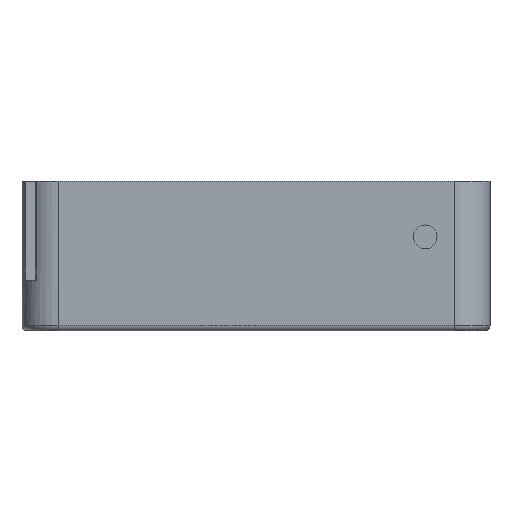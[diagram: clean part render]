
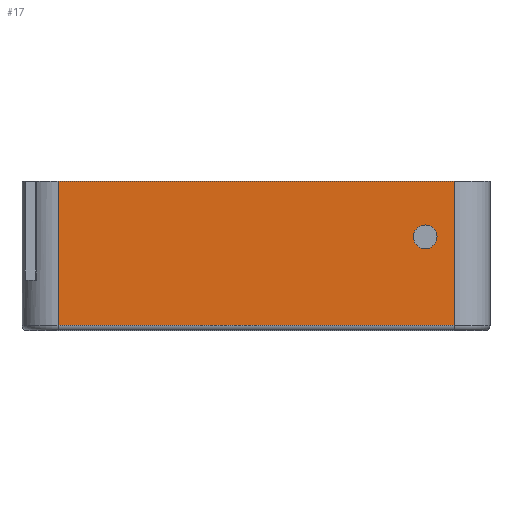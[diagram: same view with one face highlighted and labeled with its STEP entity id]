
A CAD part, top view. The second image highlights one B-rep face of the part: STEP entity #17.
In plain terms, the highlighted planar face has unit normal (0, 0, 1).
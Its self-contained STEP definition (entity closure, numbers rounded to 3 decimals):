
#17 = ADVANCED_FACE('',(#18,#137),#32,.F.);
#18 = FACE_BOUND('',#19,.F.);
#19 = EDGE_LOOP('',(#20,#55,#83,#111));
#20 = ORIENTED_EDGE('',*,*,#21,.T.);
#21 = EDGE_CURVE('',#22,#24,#26,.T.);
#22 = VERTEX_POINT('',#23);
#23 = CARTESIAN_POINT('',(-55.,-14.6,83.));
#24 = VERTEX_POINT('',#25);
#25 = CARTESIAN_POINT('',(-55.,25.5,83.));
#26 = SURFACE_CURVE('',#27,(#31,#43),.PCURVE_S1.);
#27 = LINE('',#28,#29);
#28 = CARTESIAN_POINT('',(-55.,-16.,83.));
#29 = VECTOR('',#30,1.);
#30 = DIRECTION('',(0.,1.,0.));
#31 = PCURVE('',#32,#37);
#32 = PLANE('',#33);
#33 = AXIS2_PLACEMENT_3D('',#34,#35,#36);
#34 = CARTESIAN_POINT('',(-65.,-16.,83.));
#35 = DIRECTION('',(0.,0.,-1.));
#36 = DIRECTION('',(1.,0.,0.));
#37 = DEFINITIONAL_REPRESENTATION('',(#38),#42);
#38 = LINE('',#39,#40);
#39 = CARTESIAN_POINT('',(10.,0.));
#40 = VECTOR('',#41,1.);
#41 = DIRECTION('',(0.,-1.));
#42 = ( GEOMETRIC_REPRESENTATION_CONTEXT(2) 
PARAMETRIC_REPRESENTATION_CONTEXT() REPRESENTATION_CONTEXT('2D SPACE',''
  ) );
#43 = PCURVE('',#44,#49);
#44 = CYLINDRICAL_SURFACE('',#45,10.);
#45 = AXIS2_PLACEMENT_3D('',#46,#47,#48);
#46 = CARTESIAN_POINT('',(-55.,-16.,73.));
#47 = DIRECTION('',(0.,1.,0.));
#48 = DIRECTION('',(0.,-0.,1.));
#49 = DEFINITIONAL_REPRESENTATION('',(#50),#54);
#50 = LINE('',#51,#52);
#51 = CARTESIAN_POINT('',(-0.,0.));
#52 = VECTOR('',#53,1.);
#53 = DIRECTION('',(-0.,1.));
#54 = ( GEOMETRIC_REPRESENTATION_CONTEXT(2) 
PARAMETRIC_REPRESENTATION_CONTEXT() REPRESENTATION_CONTEXT('2D SPACE',''
  ) );
#55 = ORIENTED_EDGE('',*,*,#56,.T.);
#56 = EDGE_CURVE('',#24,#57,#59,.T.);
#57 = VERTEX_POINT('',#58);
#58 = CARTESIAN_POINT('',(55.,25.5,83.));
#59 = SURFACE_CURVE('',#60,(#64,#71),.PCURVE_S1.);
#60 = LINE('',#61,#62);
#61 = CARTESIAN_POINT('',(-65.,25.5,83.));
#62 = VECTOR('',#63,1.);
#63 = DIRECTION('',(1.,0.,0.));
#64 = PCURVE('',#32,#65);
#65 = DEFINITIONAL_REPRESENTATION('',(#66),#70);
#66 = LINE('',#67,#68);
#67 = CARTESIAN_POINT('',(0.,-41.5));
#68 = VECTOR('',#69,1.);
#69 = DIRECTION('',(1.,0.));
#70 = ( GEOMETRIC_REPRESENTATION_CONTEXT(2) 
PARAMETRIC_REPRESENTATION_CONTEXT() REPRESENTATION_CONTEXT('2D SPACE',''
  ) );
#71 = PCURVE('',#72,#77);
#72 = PLANE('',#73);
#73 = AXIS2_PLACEMENT_3D('',#74,#75,#76);
#74 = CARTESIAN_POINT('',(0.,25.5,44.));
#75 = DIRECTION('',(0.,1.,0.));
#76 = DIRECTION('',(0.,-0.,1.));
#77 = DEFINITIONAL_REPRESENTATION('',(#78),#82);
#78 = LINE('',#79,#80);
#79 = CARTESIAN_POINT('',(39.,-65.));
#80 = VECTOR('',#81,1.);
#81 = DIRECTION('',(0.,1.));
#82 = ( GEOMETRIC_REPRESENTATION_CONTEXT(2) 
PARAMETRIC_REPRESENTATION_CONTEXT() REPRESENTATION_CONTEXT('2D SPACE',''
  ) );
#83 = ORIENTED_EDGE('',*,*,#84,.F.);
#84 = EDGE_CURVE('',#85,#57,#87,.T.);
#85 = VERTEX_POINT('',#86);
#86 = CARTESIAN_POINT('',(55.,-14.6,83.));
#87 = SURFACE_CURVE('',#88,(#92,#99),.PCURVE_S1.);
#88 = LINE('',#89,#90);
#89 = CARTESIAN_POINT('',(55.,-16.,83.));
#90 = VECTOR('',#91,1.);
#91 = DIRECTION('',(0.,1.,0.));
#92 = PCURVE('',#32,#93);
#93 = DEFINITIONAL_REPRESENTATION('',(#94),#98);
#94 = LINE('',#95,#96);
#95 = CARTESIAN_POINT('',(120.,0.));
#96 = VECTOR('',#97,1.);
#97 = DIRECTION('',(0.,-1.));
#98 = ( GEOMETRIC_REPRESENTATION_CONTEXT(2) 
PARAMETRIC_REPRESENTATION_CONTEXT() REPRESENTATION_CONTEXT('2D SPACE',''
  ) );
#99 = PCURVE('',#100,#105);
#100 = CYLINDRICAL_SURFACE('',#101,10.);
#101 = AXIS2_PLACEMENT_3D('',#102,#103,#104);
#102 = CARTESIAN_POINT('',(55.,-16.,73.));
#103 = DIRECTION('',(0.,1.,0.));
#104 = DIRECTION('',(0.,-0.,1.));
#105 = DEFINITIONAL_REPRESENTATION('',(#106),#110);
#106 = LINE('',#107,#108);
#107 = CARTESIAN_POINT('',(0.,0.));
#108 = VECTOR('',#109,1.);
#109 = DIRECTION('',(0.,1.));
#110 = ( GEOMETRIC_REPRESENTATION_CONTEXT(2) 
PARAMETRIC_REPRESENTATION_CONTEXT() REPRESENTATION_CONTEXT('2D SPACE',''
  ) );
#111 = ORIENTED_EDGE('',*,*,#112,.F.);
#112 = EDGE_CURVE('',#22,#85,#113,.T.);
#113 = SURFACE_CURVE('',#114,(#118,#125),.PCURVE_S1.);
#114 = LINE('',#115,#116);
#115 = CARTESIAN_POINT('',(-55.,-14.6,83.));
#116 = VECTOR('',#117,1.);
#117 = DIRECTION('',(1.,0.,0.));
#118 = PCURVE('',#32,#119);
#119 = DEFINITIONAL_REPRESENTATION('',(#120),#124);
#120 = LINE('',#121,#122);
#121 = CARTESIAN_POINT('',(10.,-1.4));
#122 = VECTOR('',#123,1.);
#123 = DIRECTION('',(1.,0.));
#124 = ( GEOMETRIC_REPRESENTATION_CONTEXT(2) 
PARAMETRIC_REPRESENTATION_CONTEXT() REPRESENTATION_CONTEXT('2D SPACE',''
  ) );
#125 = PCURVE('',#126,#131);
#126 = CYLINDRICAL_SURFACE('',#127,1.4);
#127 = AXIS2_PLACEMENT_3D('',#128,#129,#130);
#128 = CARTESIAN_POINT('',(-55.,-14.6,81.6));
#129 = DIRECTION('',(1.,0.,0.));
#130 = DIRECTION('',(0.,-0.,1.));
#131 = DEFINITIONAL_REPRESENTATION('',(#132),#136);
#132 = LINE('',#133,#134);
#133 = CARTESIAN_POINT('',(0.,0.));
#134 = VECTOR('',#135,1.);
#135 = DIRECTION('',(0.,1.));
#136 = ( GEOMETRIC_REPRESENTATION_CONTEXT(2) 
PARAMETRIC_REPRESENTATION_CONTEXT() REPRESENTATION_CONTEXT('2D SPACE',''
  ) );
#137 = FACE_BOUND('',#138,.F.);
#138 = EDGE_LOOP('',(#139));
#139 = ORIENTED_EDGE('',*,*,#140,.F.);
#140 = EDGE_CURVE('',#141,#141,#143,.T.);
#141 = VERTEX_POINT('',#142);
#142 = CARTESIAN_POINT('',(50.3,10.,83.));
#143 = SURFACE_CURVE('',#144,(#149,#156),.PCURVE_S1.);
#144 = CIRCLE('',#145,3.3);
#145 = AXIS2_PLACEMENT_3D('',#146,#147,#148);
#146 = CARTESIAN_POINT('',(47.,10.,83.));
#147 = DIRECTION('',(0.,0.,-1.));
#148 = DIRECTION('',(1.,0.,0.));
#149 = PCURVE('',#32,#150);
#150 = DEFINITIONAL_REPRESENTATION('',(#151),#155);
#151 = CIRCLE('',#152,3.3);
#152 = AXIS2_PLACEMENT_2D('',#153,#154);
#153 = CARTESIAN_POINT('',(112.,-26.));
#154 = DIRECTION('',(1.,0.));
#155 = ( GEOMETRIC_REPRESENTATION_CONTEXT(2) 
PARAMETRIC_REPRESENTATION_CONTEXT() REPRESENTATION_CONTEXT('2D SPACE',''
  ) );
#156 = PCURVE('',#157,#162);
#157 = CYLINDRICAL_SURFACE('',#158,3.3);
#158 = AXIS2_PLACEMENT_3D('',#159,#160,#161);
#159 = CARTESIAN_POINT('',(47.,10.,77.));
#160 = DIRECTION('',(-0.,-0.,-1.));
#161 = DIRECTION('',(1.,0.,0.));
#162 = DEFINITIONAL_REPRESENTATION('',(#163),#167);
#163 = LINE('',#164,#165);
#164 = CARTESIAN_POINT('',(-6.283,-6.));
#165 = VECTOR('',#166,1.);
#166 = DIRECTION('',(1.,-0.));
#167 = ( GEOMETRIC_REPRESENTATION_CONTEXT(2) 
PARAMETRIC_REPRESENTATION_CONTEXT() REPRESENTATION_CONTEXT('2D SPACE',''
  ) );
